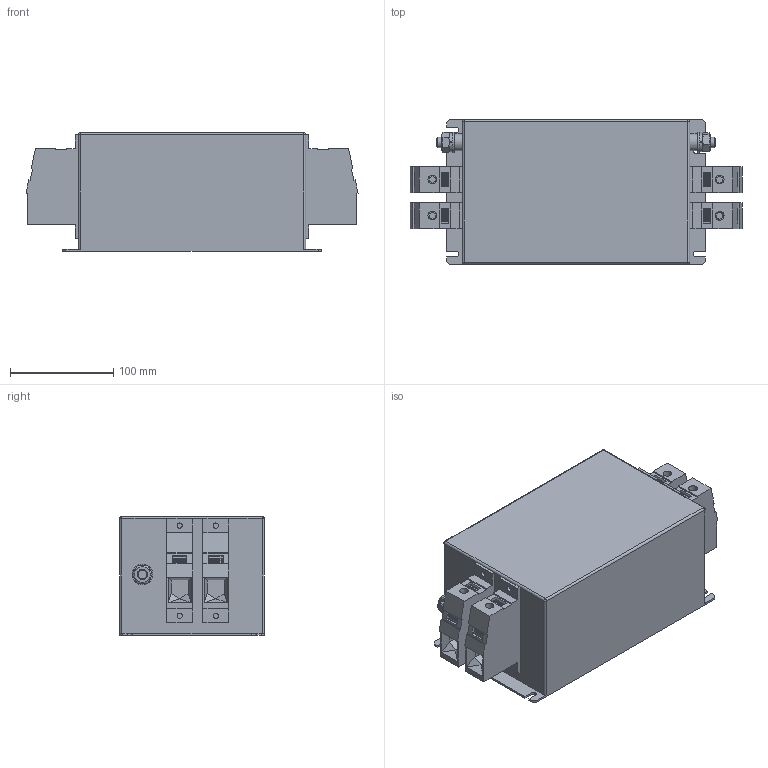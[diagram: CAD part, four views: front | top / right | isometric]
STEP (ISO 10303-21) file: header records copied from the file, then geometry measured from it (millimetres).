
FILE_DESCRIPTION((''),'2;1');
FILE_NAME('P:\Construction\INVENTOR_Projektedaten\HousingDesign\FN2200-150-40.stp','2013-10-24T15:19:37',('Samuel.Meier'),(''),'Autodesk Inventor 2013','Autodesk Inventor 2013','');
FILE_SCHEMA(('AUTOMOTIVE_DESIGN { 1 0 10303 214 1 1 1 1 }'));
Length unit declared in the file: millimetre
Products named in the file (1): FN2200-150-40
Bounding box: 321.33 x 140 x 115 mm (x, y, z)
Volume: 3869231.7 mm3; surface area: 205214.8 mm2
Topology: 1 solids, 1 shells, 422 faces, 1100 edges, 714 vertices
Faces by surface type: plane 340, cylinder 70, cone 8, sphere 4
Full cylindrical faces by diameter (mm): 5 x8, 8.4 x4, 10 x4, 10.5 x2, 16.5 x2, 20 x2
Entity records: 12861 total; most frequent: CARTESIAN_POINT 2223, ORIENTED_EDGE 2108, DIRECTION 2034, EDGE_CURVE 1054, VECTOR 872, LINE 872, VERTEX_POINT 698, AXIS2_PLACEMENT_3D 581
